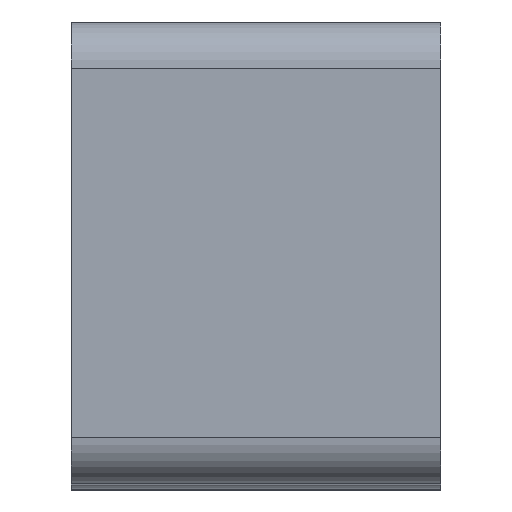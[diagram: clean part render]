
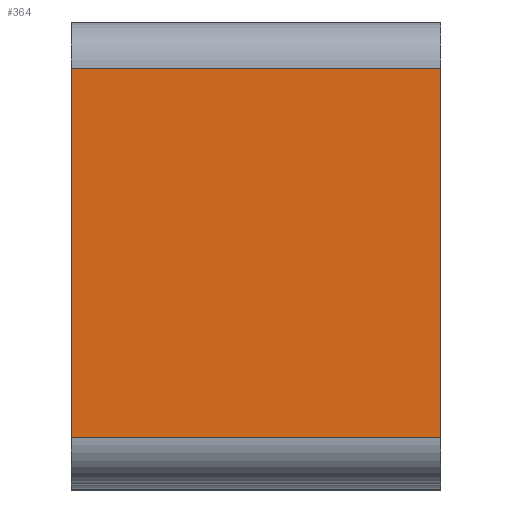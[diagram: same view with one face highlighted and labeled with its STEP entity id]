
A CAD part, top view. The second image highlights one B-rep face of the part: STEP entity #364.
In plain terms, the highlighted planar face has unit normal (0, 0, 1).
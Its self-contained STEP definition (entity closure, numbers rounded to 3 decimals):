
#31 = ORIENTED_EDGE ( 'NONE', *, *, #1005, .T. ) ;
#48 = CARTESIAN_POINT ( 'NONE',  ( 0., 5., 20. ) ) ;
#81 = CARTESIAN_POINT ( 'NONE',  ( 0., 0.5, 20. ) ) ;
#101 = EDGE_CURVE ( 'NONE', #262, #341, #1077, .T. ) ;
#108 = VERTEX_POINT ( 'NONE', #483 ) ;
#151 = LINE ( 'NONE', #821, #415 ) ;
#189 = ORIENTED_EDGE ( 'NONE', *, *, #301, .T. ) ;
#206 = DIRECTION ( 'NONE',  ( -1., 0., 0. ) ) ;
#213 = DIRECTION ( 'NONE',  ( 0., -1., 0. ) ) ;
#244 = EDGE_CURVE ( 'NONE', #108, #341, #151, .T. ) ;
#256 = VECTOR ( 'NONE', #427, 1000. ) ;
#262 = VERTEX_POINT ( 'NONE', #953 ) ;
#301 = EDGE_CURVE ( 'NONE', #108, #805, #960, .T. ) ;
#309 = VECTOR ( 'NONE', #213, 1000. ) ;
#341 = VERTEX_POINT ( 'NONE', #677 ) ;
#348 = CARTESIAN_POINT ( 'NONE',  ( 0., 4.5, 20. ) ) ;
#364 = ADVANCED_FACE ( 'NONE', ( #617 ), #365, .F. ) ;
#365 = PLANE ( 'NONE',  #657 ) ;
#391 = LINE ( 'NONE', #48, #309 ) ;
#406 = DIRECTION ( 'NONE',  ( 0., -1., 0. ) ) ;
#415 = VECTOR ( 'NONE', #406, 1000. ) ;
#427 = DIRECTION ( 'NONE',  ( 1., 0., 0. ) ) ;
#483 = CARTESIAN_POINT ( 'NONE',  ( 4., 4.5, 20. ) ) ;
#538 = DIRECTION ( 'NONE',  ( -1., 0., 0. ) ) ;
#599 = EDGE_LOOP ( 'NONE', ( #31, #771, #630, #189 ) ) ;
#614 = CARTESIAN_POINT ( 'NONE',  ( 0., 5., 20. ) ) ;
#617 = FACE_OUTER_BOUND ( 'NONE', #599, .T. ) ;
#630 = ORIENTED_EDGE ( 'NONE', *, *, #244, .F. ) ;
#657 = AXIS2_PLACEMENT_3D ( 'NONE', #614, #947, #538 ) ;
#677 = CARTESIAN_POINT ( 'NONE',  ( 4., 0.5, 20. ) ) ;
#771 = ORIENTED_EDGE ( 'NONE', *, *, #101, .T. ) ;
#805 = VERTEX_POINT ( 'NONE', #1003 ) ;
#821 = CARTESIAN_POINT ( 'NONE',  ( 4., 5., 20. ) ) ;
#947 = DIRECTION ( 'NONE',  ( 0., 0., -1. ) ) ;
#953 = CARTESIAN_POINT ( 'NONE',  ( 0., 0.5, 20. ) ) ;
#960 = LINE ( 'NONE', #348, #971 ) ;
#971 = VECTOR ( 'NONE', #206, 1000. ) ;
#1003 = CARTESIAN_POINT ( 'NONE',  ( 0., 4.5, 20. ) ) ;
#1005 = EDGE_CURVE ( 'NONE', #805, #262, #391, .T. ) ;
#1077 = LINE ( 'NONE', #81, #256 ) ;
